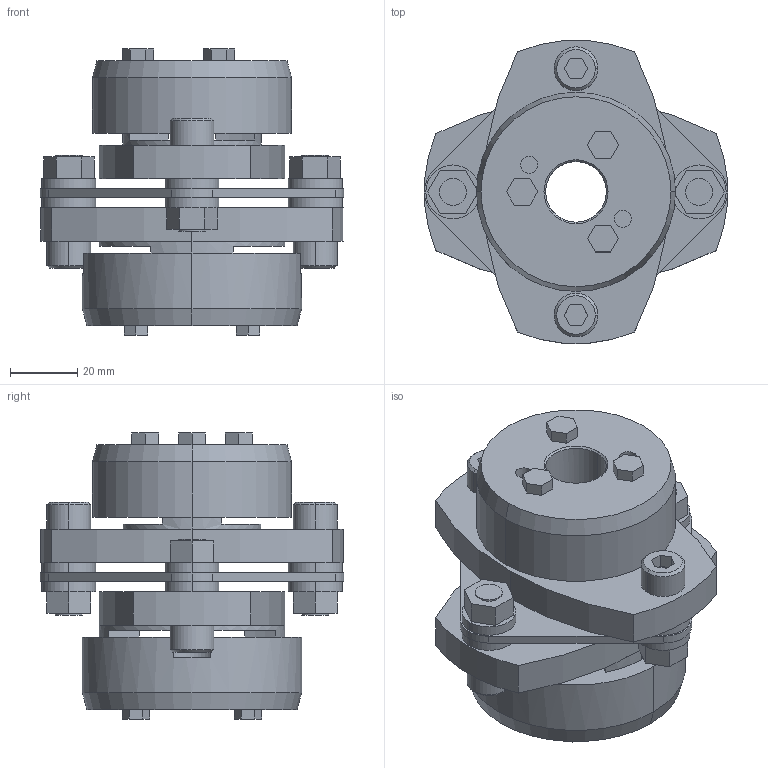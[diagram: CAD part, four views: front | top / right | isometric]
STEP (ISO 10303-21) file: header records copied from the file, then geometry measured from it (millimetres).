
FILE_DESCRIPTION((''),'2;1');
FILE_NAME('LCS-90T7-18×35.stp','2015-11-01T20:14:06',(''),(''),'AutoCAD STEP 2000i','AutoCAD 2000i',', , ');
FILE_SCHEMA(('CONFIG_CONTROL_DESIGN'));
Length unit declared in the file: millimetre
Products named in the file (11): LCS-90T7-19×35; 忣兜1; LC90T7-T035; LC90T7-T032; LC90T7-T030; LC90T7-T025; LC90T7-T019-1; LC90T7-T019; LC90-B019-1; LC90-B019; LCS90-ITA
Assembly tree (10 placements, depth 2):
  LCS-90T7-19×35
    忣兜1
    LC90T7-T035
    LC90T7-T032
    LC90T7-T030
    LC90T7-T025
    LC90T7-T019-1
    LC90T7-T019
    LC90-B019-1
    LC90-B019
    LCS90-ITA
Bounding box: 90 x 89.94 x 84.8 mm (x, y, z)
Volume: 201144.2 mm3; surface area: 52858.7 mm2
Topology: 1 solids, 1 shells, 244 faces, 598 edges, 390 vertices
Faces by surface type: plane 142, cylinder 82, cone 20
Entity records: 7469 total; most frequent: DIRECTION 1312, CARTESIAN_POINT 1243, ORIENTED_EDGE 1196, EDGE_CURVE 598, AXIS2_PLACEMENT_3D 459, VECTOR 394, LINE 394, VERTEX_POINT 390
